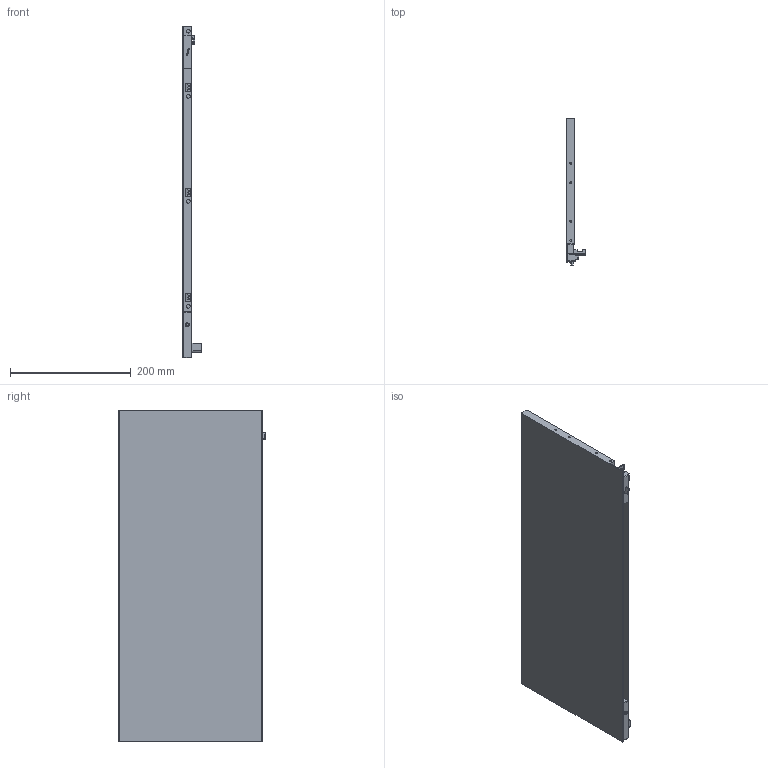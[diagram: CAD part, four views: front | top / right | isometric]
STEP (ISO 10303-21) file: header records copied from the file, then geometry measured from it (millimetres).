
FILE_DESCRIPTION (( 'STEP AP203' ), '1' );
FILE_NAME ('HT145501-L.STEP', '2021-03-16T02:45:55', ( 'Users' ), ( 'Microsoft' ), 'SwSTEP 2.0', 'SolidWorks 2018', '' );
FILE_SCHEMA (( 'CONFIG_CONTROL_DESIGN' ));
Length unit declared in the file: millimetre
Products named in the file (1): HT145501-L
Bounding box: 31.3 x 243 x 549 mm (x, y, z)
Volume: 1528908.2 mm3; surface area: 312069 mm2
Topology: 1 solids, 8 shells, 408 faces, 1031 edges, 641 vertices
Faces by surface type: plane 201, cylinder 143, torus 29, bspline 23, cone 6, sphere 6
Entity records: 12714 total; most frequent: CARTESIAN_POINT 2978, ORIENTED_EDGE 2044, DIRECTION 1979, EDGE_CURVE 1022, AXIS2_PLACEMENT_3D 674, VERTEX_POINT 641, VECTOR 631, LINE 631
